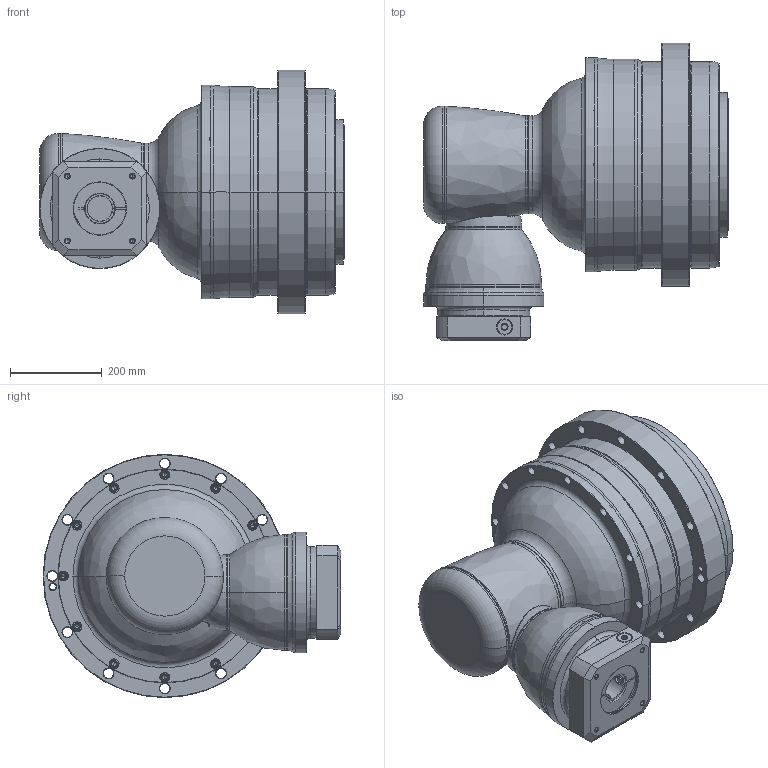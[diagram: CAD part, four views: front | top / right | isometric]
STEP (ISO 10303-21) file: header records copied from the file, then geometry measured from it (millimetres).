
FILE_DESCRIPTION((''),'2;1');
FILE_NAME('AHKA450_3ST_55-P0409C00101_ASM','2016-12-08T',('d01943'),(''),'PRO/ENGINEER BY PARAMETRIC TECHNOLOGY CORPORATION, 2008410','PRO/ENGINEER BY PARAMETRIC TECHNOLOGY CORPORATION, 2008410','');
FILE_SCHEMA(('CONFIG_CONTROL_DESIGN'));
Length unit declared in the file: millimetre
Products named in the file (12): P1008700002; P1821200001; P0276200003; P0357200003; P1315700001; P1007700001; P1318700401; P0409C00101; P0503C00016; P0912704201; 21711426021; AHKA450_3ST_55-P0409C00101_ASM
Assembly tree (11 placements, depth 2):
  AHKA450_3ST_55-P0409C00101_ASM
    P1008700002
    P1821200001
    P0276200003
    P0357200003
    P1315700001
    P1007700001
    P1318700401
    P0409C00101
    P0503C00016
    P0912704201
    21711426021
Bounding box: 663.5 x 648.5 x 530 mm (x, y, z)
Volume: 74597132.1 mm3; surface area: 2723574.9 mm2
Topology: 12 solids, 12 shells, 920 faces, 2036 edges, 1172 vertices
Faces by surface type: cone 330, cylinder 317, torus 122, plane 119, bspline 30, sphere 2
Entity records: 32815 total; most frequent: CARTESIAN_POINT 11852, DIRECTION 4840, ORIENTED_EDGE 3960, AXIS2_PLACEMENT_3D 2063, EDGE_CURVE 1980, VERTEX_POINT 1172, CIRCLE 1150, EDGE_LOOP 1100
